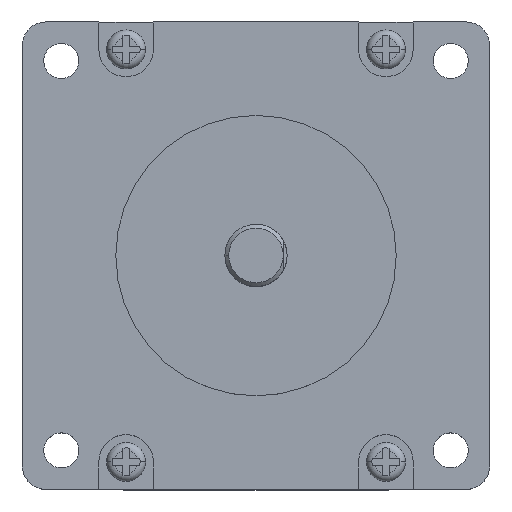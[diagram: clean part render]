
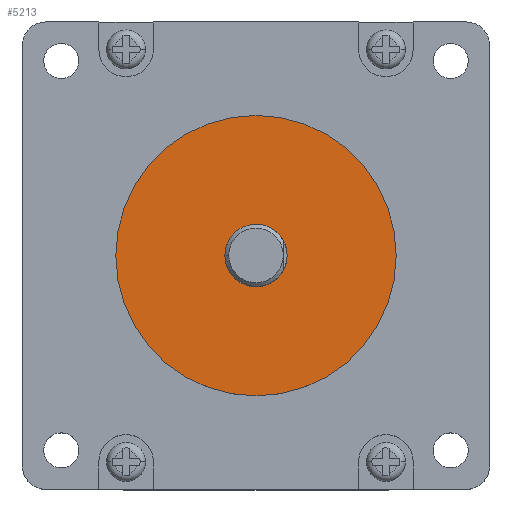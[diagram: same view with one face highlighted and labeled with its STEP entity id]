
A CAD part, top view. The second image highlights one B-rep face of the part: STEP entity #5213.
In plain terms, the highlighted planar face has unit normal (0, 0, 1).
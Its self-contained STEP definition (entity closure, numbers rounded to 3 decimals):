
#211 = AXIS2_PLACEMENT_3D ( 'NONE', #385, #377, #375 ) ;
#212 = AXIS2_PLACEMENT_3D ( 'NONE', #383, #380, #379 ) ;
#306 = AXIS2_PLACEMENT_3D ( 'NONE', #3622, #3636, #3637 ) ;
#375 = DIRECTION ( 'NONE',  ( 1., 0., 0. ) ) ;
#377 = DIRECTION ( 'NONE',  ( 0., 0., 1. ) ) ;
#379 = DIRECTION ( 'NONE',  ( 1., 0., 0. ) ) ;
#380 = DIRECTION ( 'NONE',  ( 0., 0., 1. ) ) ;
#383 = CARTESIAN_POINT ( 'NONE',  ( 0., 0., 4.1 ) ) ;
#385 = CARTESIAN_POINT ( 'NONE',  ( 0., 0., 4.1 ) ) ;
#843 = FACE_BOUND ( 'NONE', #1863, .T. ) ;
#844 = FACE_OUTER_BOUND ( 'NONE', #1873, .T. ) ;
#1208 = EDGE_CURVE ( 'NONE', #6157, #6744, #4759, .T. ) ;
#1213 = EDGE_CURVE ( 'NONE', #6422, #6721, #4766, .T. ) ;
#1863 = EDGE_LOOP ( 'NONE', ( #5436, #5435 ) ) ;
#1873 = EDGE_LOOP ( 'NONE', ( #5438, #5437 ) ) ;
#1977 = CARTESIAN_POINT ( 'NONE',  ( 0., 0., 4.1 ) ) ;
#1980 = DIRECTION ( 'NONE',  ( 1., 0., 0. ) ) ;
#1981 = DIRECTION ( 'NONE',  ( 0., 0., 1. ) ) ;
#1990 = CARTESIAN_POINT ( 'NONE',  ( 0., 0., 4.1 ) ) ;
#2071 = DIRECTION ( 'NONE',  ( 0., 0., 1. ) ) ;
#2080 = DIRECTION ( 'NONE',  ( 1., 0., 0. ) ) ;
#2524 = CARTESIAN_POINT ( 'NONE',  ( -4., 0., 4.1 ) ) ;
#2547 = CARTESIAN_POINT ( 'NONE',  ( -18., 0., 4.1 ) ) ;
#2638 = EDGE_CURVE ( 'NONE', #6721, #6422, #5766, .T. ) ;
#2639 = EDGE_CURVE ( 'NONE', #6744, #6157, #5768, .T. ) ;
#2747 = AXIS2_PLACEMENT_3D ( 'NONE', #1977, #2071, #2080 ) ;
#2752 = AXIS2_PLACEMENT_3D ( 'NONE', #1990, #1981, #1980 ) ;
#3622 = CARTESIAN_POINT ( 'NONE',  ( 0., 0., 4.1 ) ) ;
#3635 = PLANE ( 'NONE',  #306 ) ;
#3636 = DIRECTION ( 'NONE',  ( 0., 0., 1. ) ) ;
#3637 = DIRECTION ( 'NONE',  ( 1., 0., 0. ) ) ;
#4213 = CARTESIAN_POINT ( 'NONE',  ( 18., 0., 4.1 ) ) ;
#4355 = CARTESIAN_POINT ( 'NONE',  ( 4., 0., 4.1 ) ) ;
#4759 = CIRCLE ( 'NONE', #2752, 18. ) ;
#4766 = CIRCLE ( 'NONE', #2747, 4. ) ;
#5213 = ADVANCED_FACE ( 'NONE', ( #844, #843 ), #3635, .T. ) ;
#5435 = ORIENTED_EDGE ( 'NONE', *, *, #1213, .F. ) ;
#5436 = ORIENTED_EDGE ( 'NONE', *, *, #2638, .F. ) ;
#5437 = ORIENTED_EDGE ( 'NONE', *, *, #1208, .T. ) ;
#5438 = ORIENTED_EDGE ( 'NONE', *, *, #2639, .T. ) ;
#5766 = CIRCLE ( 'NONE', #212, 4. ) ;
#5768 = CIRCLE ( 'NONE', #211, 18. ) ;
#6157 = VERTEX_POINT ( 'NONE', #4213 ) ;
#6422 = VERTEX_POINT ( 'NONE', #4355 ) ;
#6721 = VERTEX_POINT ( 'NONE', #2524 ) ;
#6744 = VERTEX_POINT ( 'NONE', #2547 ) ;
